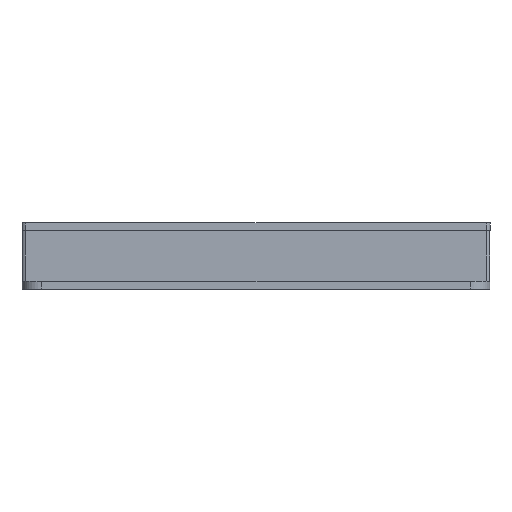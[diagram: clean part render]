
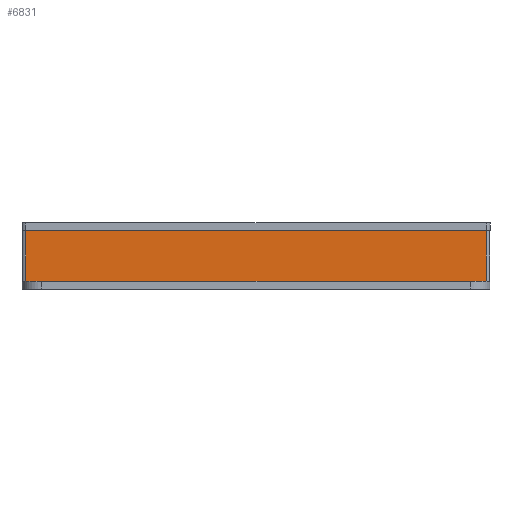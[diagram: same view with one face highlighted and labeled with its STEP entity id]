
A CAD part, front view. The second image highlights one B-rep face of the part: STEP entity #6831.
In plain terms, the highlighted planar face has unit normal (0, -1, 0).
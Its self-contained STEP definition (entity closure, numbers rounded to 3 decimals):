
#117 = DIRECTION ( 'NONE',  ( 0., 1., 0. ) ) ;
#1454 = LINE ( 'NONE', #23364, #27569 ) ;
#1694 = CARTESIAN_POINT ( 'NONE',  ( -76.47, -52.342, 126.5 ) ) ;
#4209 = VECTOR ( 'NONE', #18436, 1000. ) ;
#4288 = CARTESIAN_POINT ( 'NONE',  ( -76.47, -52.342, 113.5 ) ) ;
#5703 = CARTESIAN_POINT ( 'NONE',  ( -76.47, -52.342, 126.5 ) ) ;
#6067 = VERTEX_POINT ( 'NONE', #25958 ) ;
#6831 = ADVANCED_FACE ( 'NONE', ( #10228 ), #25142, .F. ) ;
#8468 = EDGE_CURVE ( 'NONE', #14280, #6067, #28713, .T. ) ;
#8644 = VECTOR ( 'NONE', #23420, 1000. ) ;
#10228 = FACE_OUTER_BOUND ( 'NONE', #24003, .T. ) ;
#10265 = EDGE_CURVE ( 'NONE', #14280, #22684, #29612, .T. ) ;
#10775 = CARTESIAN_POINT ( 'NONE',  ( -76.47, -52.342, 126.5 ) ) ;
#12840 = DIRECTION ( 'NONE',  ( 0., 0., 1. ) ) ;
#13181 = DIRECTION ( 'NONE',  ( 0., 0., -1. ) ) ;
#14280 = VERTEX_POINT ( 'NONE', #1694 ) ;
#14985 = EDGE_CURVE ( 'NONE', #22684, #18712, #29686, .T. ) ;
#15161 = DIRECTION ( 'NONE',  ( 1., 0., 0. ) ) ;
#18436 = DIRECTION ( 'NONE',  ( 1., 0., 0. ) ) ;
#18712 = VERTEX_POINT ( 'NONE', #23832 ) ;
#21531 = ORIENTED_EDGE ( 'NONE', *, *, #21989, .F. ) ;
#21532 = AXIS2_PLACEMENT_3D ( 'NONE', #27873, #117, #12840 ) ;
#21989 = EDGE_CURVE ( 'NONE', #6067, #18712, #1454, .T. ) ;
#22684 = VERTEX_POINT ( 'NONE', #4288 ) ;
#23364 = CARTESIAN_POINT ( 'NONE',  ( 41.53, -52.342, 126.5 ) ) ;
#23420 = DIRECTION ( 'NONE',  ( 0., 0., -1. ) ) ;
#23832 = CARTESIAN_POINT ( 'NONE',  ( 41.53, -52.342, 113.5 ) ) ;
#24003 = EDGE_LOOP ( 'NONE', ( #29836, #21531, #31898, #29301 ) ) ;
#25142 = PLANE ( 'NONE',  #21532 ) ;
#25958 = CARTESIAN_POINT ( 'NONE',  ( 41.53, -52.342, 126.5 ) ) ;
#27569 = VECTOR ( 'NONE', #13181, 1000. ) ;
#27873 = CARTESIAN_POINT ( 'NONE',  ( -76.47, -52.342, 126.5 ) ) ;
#28713 = LINE ( 'NONE', #10775, #4209 ) ;
#29301 = ORIENTED_EDGE ( 'NONE', *, *, #10265, .T. ) ;
#29612 = LINE ( 'NONE', #5703, #8644 ) ;
#29686 = LINE ( 'NONE', #32791, #30077 ) ;
#29836 = ORIENTED_EDGE ( 'NONE', *, *, #14985, .T. ) ;
#30077 = VECTOR ( 'NONE', #15161, 1000. ) ;
#31898 = ORIENTED_EDGE ( 'NONE', *, *, #8468, .F. ) ;
#32791 = CARTESIAN_POINT ( 'NONE',  ( -76.47, -52.342, 113.5 ) ) ;
